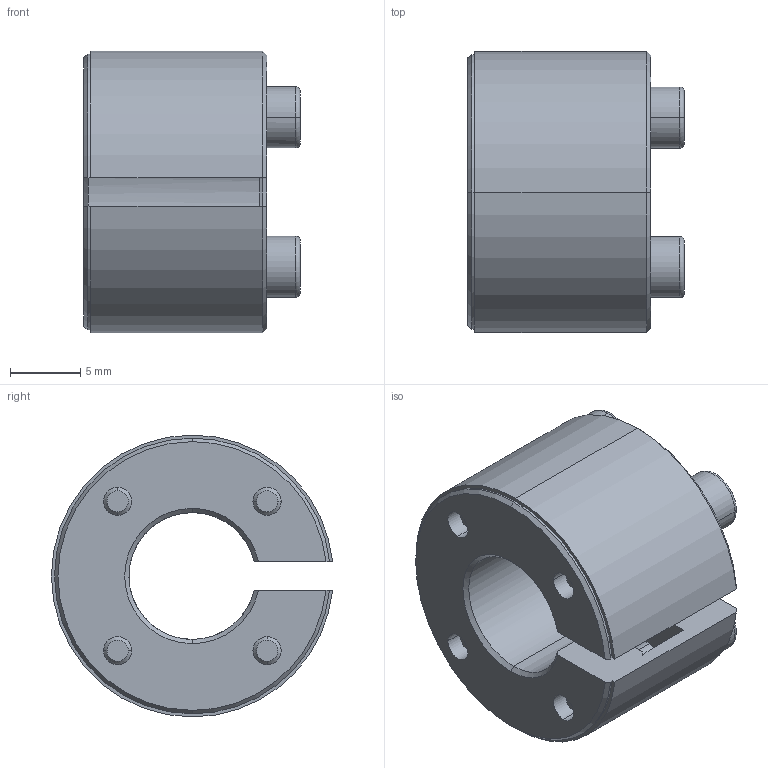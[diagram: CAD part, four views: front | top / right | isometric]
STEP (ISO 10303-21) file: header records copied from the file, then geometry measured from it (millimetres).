
FILE_DESCRIPTION (( 'STEP AP214' ), '1' );
FILE_NAME ('SAPL-E-09X20.STEP', '2024-07-12T01:58:12', ( '决扁浅何厘' ), ( '' ), 'SwSTEP 2.0', 'SolidWorks 2024', '' );
FILE_SCHEMA (( 'AUTOMOTIVE_DESIGN' ));
Length unit declared in the file: millimetre
Products named in the file (1): SAPL-E-09X20
Bounding box: 15.35 x 19.95 x 20 mm (x, y, z)
Volume: 2695.6 mm3; surface area: 2977.2 mm2
Topology: 1 solids, 1 shells, 143 faces, 361 edges, 228 vertices
Faces by surface type: plane 52, cylinder 48, cone 35, torus 8
Entity records: 4433 total; most frequent: CARTESIAN_POINT 846, DIRECTION 795, ORIENTED_EDGE 722, EDGE_CURVE 361, AXIS2_PLACEMENT_3D 318, VERTEX_POINT 228, CIRCLE 174, EDGE_LOOP 165
